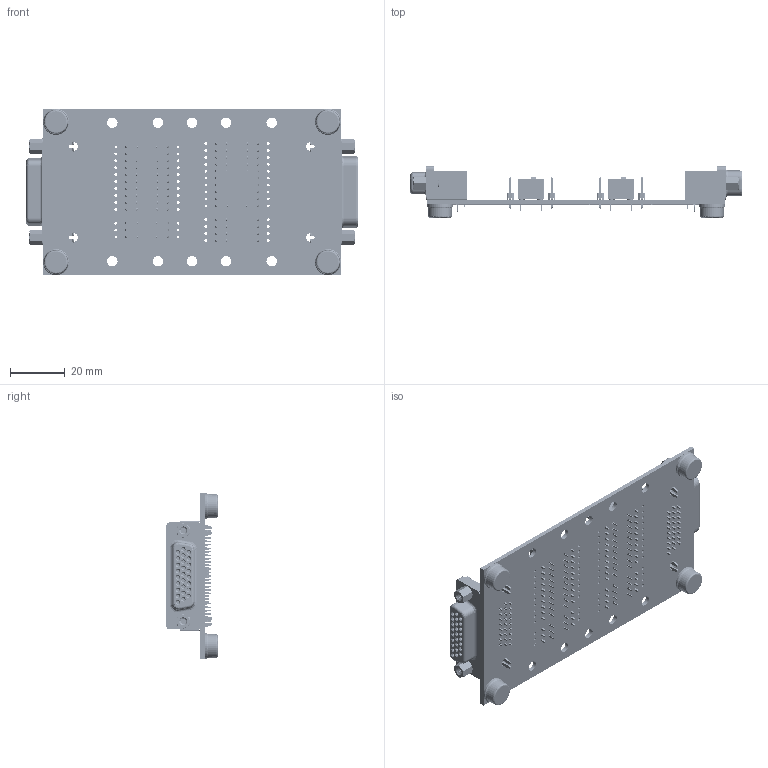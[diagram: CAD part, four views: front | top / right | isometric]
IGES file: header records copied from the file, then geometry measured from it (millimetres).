
Start section: SolidWorks IGES file using analytic representation for surfaces
Global section: file name: W:\end-user\products\bts\btsd26hd\3dmodel\rev_a\render\btsd26hd-r-ft_rev_a.igs; native system: SolidWorks 2018; preprocessor: SolidWorks 2018; author: leviroy; date: 211129.100449; units: inch
Bounding box: 121.72 x 18.9 x 60.96 mm (x, y, z)
Surface area: 37341 mm2 (no closed solid volume)
Topology: 0 solids, 0 shells, 10076 faces, 89610 edges, 89602 vertices
Faces by surface type: bspline 8712, revolution 1364
